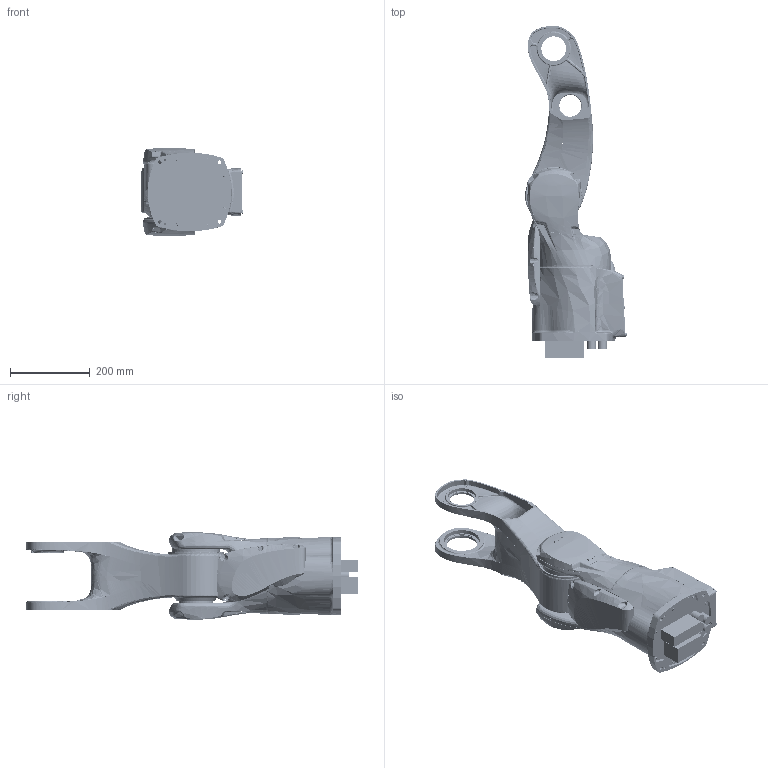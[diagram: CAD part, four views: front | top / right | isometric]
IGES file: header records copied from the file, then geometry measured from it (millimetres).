
Start section: SolidWorks IGES file using analytic representation for surfaces
Global section: file name: R:\RD\PME\SOLIDWK\Sldk_Selling Area\Semplificati\Racer\Racer5-0.80 SE-PLUG\Racer5-0.80 SE-PLUG (3D-IGS).IGS; native system: SolidWorks 2020; preprocessor: SolidWorks 2020; author: cmu1611; date: 220621.114225; units: millimetre
Bounding box: 256.05 x 835.08 x 221.86 mm (x, y, z)
Surface area: 1354247.5 mm2 (no closed solid volume)
Topology: 0 solids, 0 shells, 2599 faces, 40827 edges, 40755 vertices
Faces by surface type: bspline 1729, revolution 870
